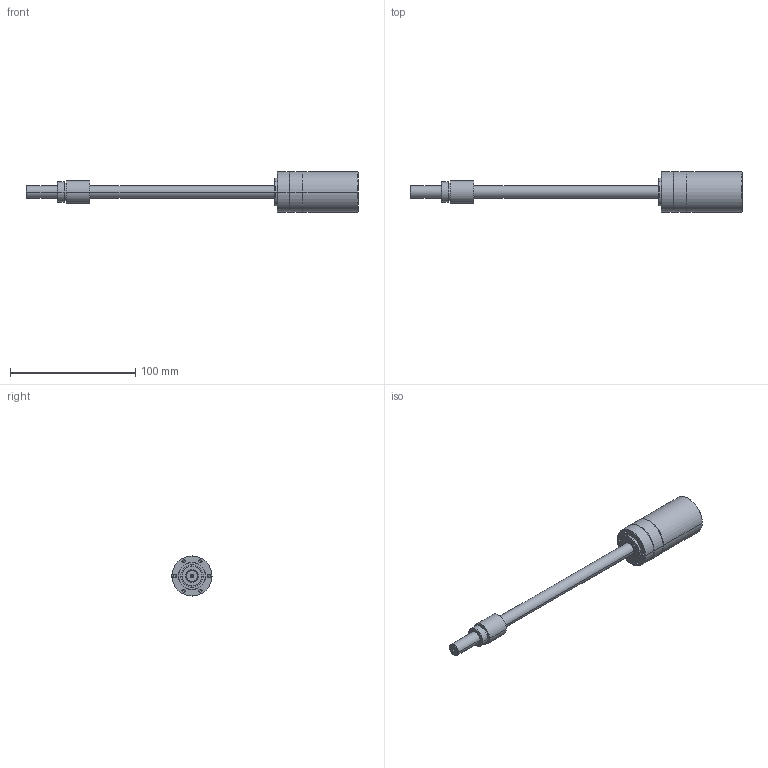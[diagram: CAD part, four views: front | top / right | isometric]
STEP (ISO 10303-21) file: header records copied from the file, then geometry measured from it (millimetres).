
FILE_DESCRIPTION((''),'2;1');
FILE_NAME('2633831','2016-10-05T',('mmagvisi'),(''),'CREO PARAMETRIC BY PTC INC, 2016050','CREO PARAMETRIC BY PTC INC, 2016050','');
FILE_SCHEMA(('CONFIG_CONTROL_DESIGN'));
Length unit declared in the file: millimetre
Products named in the file (1): 2633831
Bounding box: 265.2 x 32 x 32 mm (x, y, z)
Volume: 67293.5 mm3; surface area: 16667.4 mm2
Topology: 1 solids, 1 shells, 97 faces, 210 edges, 117 vertices
Faces by surface type: cone 42, cylinder 40, plane 13, torus 2
Entity records: 2706 total; most frequent: DIRECTION 494, CARTESIAN_POINT 486, ORIENTED_EDGE 392, AXIS2_PLACEMENT_3D 205, EDGE_CURVE 196, VERTEX_POINT 117, EDGE_LOOP 115, CIRCLE 108
